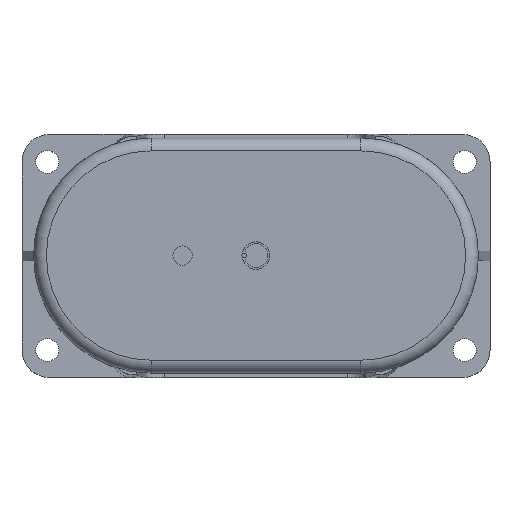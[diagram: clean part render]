
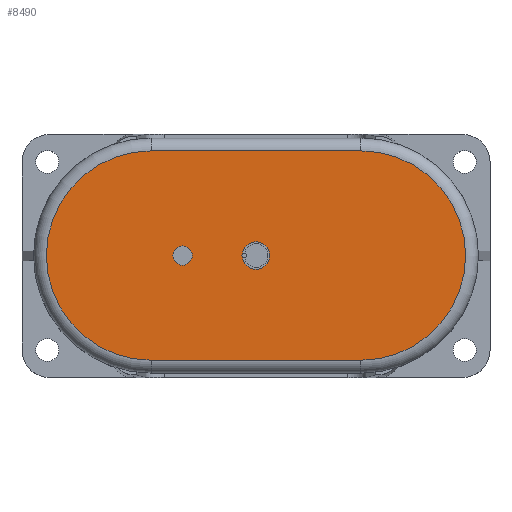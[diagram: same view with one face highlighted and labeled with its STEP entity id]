
A CAD part, top view. The second image highlights one B-rep face of the part: STEP entity #8490.
In plain terms, the highlighted planar face has unit normal (0, 0, 1).
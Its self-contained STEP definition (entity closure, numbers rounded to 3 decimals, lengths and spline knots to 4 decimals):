
#98=FACE_BOUND('',#1245,.T.);
#99=FACE_BOUND('',#1246,.T.);
#770=FACE_OUTER_BOUND('',#1244,.T.);
#1244=EDGE_LOOP('',(#6016,#6017,#6018,#6019));
#1245=EDGE_LOOP('',(#6020,#6021,#6022));
#1246=EDGE_LOOP('',(#6023));
#1800=LINE('',#35506,#2450);
#1802=LINE('',#35515,#2452);
#2450=VECTOR('',#10132,5.7188);
#2452=VECTOR('',#10144,5.7188);
#2950=CIRCLE('',#8948,0.0625);
#2951=CIRCLE('',#8949,0.0625);
#2961=CIRCLE('',#8965,0.375);
#2990=CIRCLE('',#9019,0.2635);
#2997=CIRCLE('',#9033,2.8515);
#3000=CIRCLE('',#9038,2.8515);
#3371=VERTEX_POINT('',#34670);
#3372=VERTEX_POINT('',#34671);
#3373=VERTEX_POINT('',#34673);
#3486=VERTEX_POINT('',#35392);
#3495=VERTEX_POINT('',#35494);
#3498=VERTEX_POINT('',#35499);
#3500=VERTEX_POINT('',#35504);
#3502=VERTEX_POINT('',#35510);
#4276=EDGE_CURVE('',#3371,#3372,#2950,.T.);
#4277=EDGE_CURVE('',#3373,#3371,#2951,.T.);
#4287=EDGE_CURVE('',#3372,#3373,#2961,.T.);
#4420=EDGE_CURVE('',#3486,#3486,#2990,.T.);
#4439=EDGE_CURVE('',#3498,#3495,#2997,.T.);
#4441=EDGE_CURVE('',#3500,#3498,#1800,.T.);
#4444=EDGE_CURVE('',#3502,#3500,#3000,.T.);
#4446=EDGE_CURVE('',#3495,#3502,#1802,.T.);
#6016=ORIENTED_EDGE('',*,*,#4439,.F.);
#6017=ORIENTED_EDGE('',*,*,#4441,.F.);
#6018=ORIENTED_EDGE('',*,*,#4444,.F.);
#6019=ORIENTED_EDGE('',*,*,#4446,.F.);
#6020=ORIENTED_EDGE('',*,*,#4287,.T.);
#6021=ORIENTED_EDGE('',*,*,#4277,.T.);
#6022=ORIENTED_EDGE('',*,*,#4276,.T.);
#6023=ORIENTED_EDGE('',*,*,#4420,.T.);
#7670=PLANE('',#9044);
#8490=ADVANCED_FACE('',(#770,#98,#99),#7670,.T.);
#8948=AXIS2_PLACEMENT_3D('',#34672,#9890,#9891);
#8949=AXIS2_PLACEMENT_3D('',#34674,#9892,#9893);
#8965=AXIS2_PLACEMENT_3D('',#34697,#9924,#9925);
#9019=AXIS2_PLACEMENT_3D('',#35393,#10090,#10091);
#9033=AXIS2_PLACEMENT_3D('',#35501,#10126,#10127);
#9038=AXIS2_PLACEMENT_3D('',#35512,#10138,#10139);
#9044=AXIS2_PLACEMENT_3D('',#35527,#10156,#10157);
#9890=DIRECTION('center_axis',(0.,0.,
-1.));
#9891=DIRECTION('ref_axis',(1.,0.,0.));
#9892=DIRECTION('center_axis',(0.,0.,
-1.));
#9893=DIRECTION('ref_axis',(1.,0.,0.));
#9924=DIRECTION('center_axis',(0.,0.,
-1.));
#9925=DIRECTION('ref_axis',(0.938,-0.348,0.));
#10090=DIRECTION('center_axis',(0.,0.,
-1.));
#10091=DIRECTION('ref_axis',(1.,0.,0.));
#10126=DIRECTION('center_axis',(0.,0.,
-1.));
#10127=DIRECTION('ref_axis',(1.,0.,0.));
#10132=DIRECTION('',(1.,0.,0.));
#10138=DIRECTION('center_axis',(0.,0.,
-1.));
#10139=DIRECTION('ref_axis',(-1.,0.,0.));
#10144=DIRECTION('',(-1.,0.,0.));
#10156=DIRECTION('center_axis',(0.,0.,
1.));
#10157=DIRECTION('ref_axis',(1.,0.,0.));
#34670=CARTESIAN_POINT('',(-0.3835,0.,7.5));
#34671=CARTESIAN_POINT('',(-0.3735,0.034,7.5));
#34672=CARTESIAN_POINT('Origin',(-0.321,0.,7.5));
#34673=CARTESIAN_POINT('',(-0.3735,-0.034,7.5));
#34674=CARTESIAN_POINT('Origin',(-0.321,0.,7.5));
#34697=CARTESIAN_POINT('Origin',(0.,0.,
7.5));
#35392=CARTESIAN_POINT('',(-1.7365,0.,7.5));
#35393=CARTESIAN_POINT('Origin',(-2.,0.,7.5));
#35494=CARTESIAN_POINT('',(2.8594,-2.8515,7.5));
#35499=CARTESIAN_POINT('',(2.8594,2.8515,7.5));
#35501=CARTESIAN_POINT('Origin',(2.8594,0.,7.5));
#35504=CARTESIAN_POINT('',(-2.8594,2.8515,7.5));
#35506=CARTESIAN_POINT('',(1.4297,2.8515,7.5));
#35510=CARTESIAN_POINT('',(-2.8594,-2.8515,7.5));
#35512=CARTESIAN_POINT('Origin',(-2.8594,0.,7.5));
#35515=CARTESIAN_POINT('',(-1.4297,-2.8515,7.5));
#35527=CARTESIAN_POINT('Origin',(0.,0.,
7.5));
